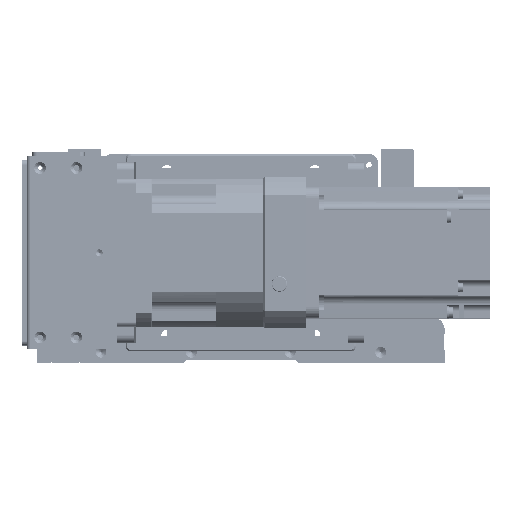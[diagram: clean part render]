
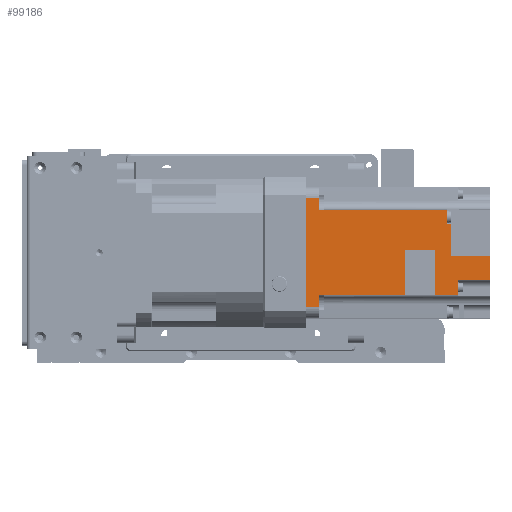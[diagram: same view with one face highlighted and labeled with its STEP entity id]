
A CAD part, front view. The second image highlights one B-rep face of the part: STEP entity #99186.
In plain terms, the highlighted planar face has unit normal (0, -1, 0.003).
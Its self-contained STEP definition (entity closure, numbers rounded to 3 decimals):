
#4140=PLANE('',#107524);
#10253=FACE_OUTER_BOUND('',#16115,.T.);
#16115=EDGE_LOOP('',(#83112,#83113,#83114,#83115,#83116,#83117,#83118,#83119,
#83120,#83121,#83122,#83123,#83124,#83125,#83126,#83127,#83128,#83129,#83130,
#83131,#83132,#83133,#83134,#83135,#83136,#83137));
#23862=LINE('',#158003,#35032);
#23863=LINE('',#158006,#35033);
#23868=LINE('',#158048,#35038);
#23872=LINE('',#158077,#35042);
#23875=LINE('',#158088,#35045);
#23876=LINE('',#158092,#35046);
#23877=LINE('',#158094,#35047);
#23878=LINE('',#158095,#35048);
#23879=LINE('',#158097,#35049);
#23880=LINE('',#158099,#35050);
#23881=LINE('',#158101,#35051);
#23882=LINE('',#158102,#35052);
#23883=LINE('',#158104,#35053);
#23884=LINE('',#158106,#35054);
#23885=LINE('',#158108,#35055);
#23886=LINE('',#158110,#35056);
#23887=LINE('',#158112,#35057);
#23888=LINE('',#158114,#35058);
#23889=LINE('',#158116,#35059);
#23890=LINE('',#158118,#35060);
#23891=LINE('',#158120,#35061);
#23892=LINE('',#158122,#35062);
#23893=LINE('',#158124,#35063);
#23894=LINE('',#158126,#35064);
#23895=LINE('',#158128,#35065);
#23896=LINE('',#158129,#35066);
#35032=VECTOR('',#126040,3.);
#35033=VECTOR('',#126043,0.009);
#35038=VECTOR('',#126082,0.009);
#35042=VECTOR('',#126112,7.342);
#35045=VECTOR('',#126123,8.);
#35046=VECTOR('',#126126,2.548);
#35047=VECTOR('',#126127,2.682);
#35048=VECTOR('',#126128,75.);
#35049=VECTOR('',#126129,66.);
#35050=VECTOR('',#126130,8.);
#35051=VECTOR('',#126131,7.342);
#35052=VECTOR('',#126132,3.);
#35053=VECTOR('',#126133,49.1);
#35054=VECTOR('',#126134,27.466);
#35055=VECTOR('',#126135,18.55);
#35056=VECTOR('',#126136,27.466);
#35057=VECTOR('',#126137,13.85);
#35058=VECTOR('',#126138,8.966);
#35059=VECTOR('',#126139,19.5);
#35060=VECTOR('',#126140,14.5);
#35061=VECTOR('',#126141,23.5);
#35062=VECTOR('',#126142,19.4);
#35063=VECTOR('',#126143,0.5);
#35064=VECTOR('',#126144,0.001);
#35065=VECTOR('',#126145,2.);
#35066=VECTOR('',#126146,3.238);
#48792=VERTEX_POINT('',#157997);
#48794=VERTEX_POINT('',#158001);
#48795=VERTEX_POINT('',#158005);
#48814=VERTEX_POINT('',#158045);
#48815=VERTEX_POINT('',#158047);
#48826=VERTEX_POINT('',#158074);
#48831=VERTEX_POINT('',#158086);
#48832=VERTEX_POINT('',#158090);
#48833=VERTEX_POINT('',#158091);
#48834=VERTEX_POINT('',#158093);
#48835=VERTEX_POINT('',#158096);
#48836=VERTEX_POINT('',#158098);
#48837=VERTEX_POINT('',#158100);
#48838=VERTEX_POINT('',#158103);
#48839=VERTEX_POINT('',#158105);
#48840=VERTEX_POINT('',#158107);
#48841=VERTEX_POINT('',#158109);
#48842=VERTEX_POINT('',#158111);
#48843=VERTEX_POINT('',#158113);
#48844=VERTEX_POINT('',#158115);
#48845=VERTEX_POINT('',#158117);
#48846=VERTEX_POINT('',#158119);
#48847=VERTEX_POINT('',#158121);
#48848=VERTEX_POINT('',#158123);
#48849=VERTEX_POINT('',#158125);
#48850=VERTEX_POINT('',#158127);
#60928=EDGE_CURVE('',#48794,#48792,#23862,.T.);
#60929=EDGE_CURVE('',#48792,#48795,#23863,.T.);
#60949=EDGE_CURVE('',#48814,#48815,#23868,.T.);
#60963=EDGE_CURVE('',#48794,#48826,#23872,.T.);
#60969=EDGE_CURVE('',#48826,#48831,#23875,.T.);
#60970=EDGE_CURVE('',#48832,#48833,#23876,.T.);
#60971=EDGE_CURVE('',#48834,#48832,#23877,.T.);
#60972=EDGE_CURVE('',#48834,#48795,#23878,.T.);
#60973=EDGE_CURVE('',#48831,#48835,#23879,.T.);
#60974=EDGE_CURVE('',#48835,#48836,#23880,.T.);
#60975=EDGE_CURVE('',#48836,#48837,#23881,.T.);
#60976=EDGE_CURVE('',#48837,#48815,#23882,.T.);
#60977=EDGE_CURVE('',#48838,#48814,#23883,.T.);
#60978=EDGE_CURVE('',#48838,#48839,#23884,.T.);
#60979=EDGE_CURVE('',#48839,#48840,#23885,.T.);
#60980=EDGE_CURVE('',#48841,#48840,#23886,.T.);
#60981=EDGE_CURVE('',#48841,#48842,#23887,.T.);
#60982=EDGE_CURVE('',#48843,#48842,#23888,.T.);
#60983=EDGE_CURVE('',#48844,#48843,#23889,.T.);
#60984=EDGE_CURVE('',#48844,#48845,#23890,.T.);
#60985=EDGE_CURVE('',#48845,#48846,#23891,.T.);
#60986=EDGE_CURVE('',#48846,#48847,#23892,.T.);
#60987=EDGE_CURVE('',#48847,#48848,#23893,.T.);
#60988=EDGE_CURVE('',#48849,#48848,#23894,.T.);
#60989=EDGE_CURVE('',#48849,#48850,#23895,.T.);
#60990=EDGE_CURVE('',#48833,#48850,#23896,.T.);
#83112=ORIENTED_EDGE('',*,*,#60970,.F.);
#83113=ORIENTED_EDGE('',*,*,#60971,.F.);
#83114=ORIENTED_EDGE('',*,*,#60972,.T.);
#83115=ORIENTED_EDGE('',*,*,#60929,.F.);
#83116=ORIENTED_EDGE('',*,*,#60928,.F.);
#83117=ORIENTED_EDGE('',*,*,#60963,.T.);
#83118=ORIENTED_EDGE('',*,*,#60969,.T.);
#83119=ORIENTED_EDGE('',*,*,#60973,.T.);
#83120=ORIENTED_EDGE('',*,*,#60974,.T.);
#83121=ORIENTED_EDGE('',*,*,#60975,.T.);
#83122=ORIENTED_EDGE('',*,*,#60976,.T.);
#83123=ORIENTED_EDGE('',*,*,#60949,.F.);
#83124=ORIENTED_EDGE('',*,*,#60977,.F.);
#83125=ORIENTED_EDGE('',*,*,#60978,.T.);
#83126=ORIENTED_EDGE('',*,*,#60979,.T.);
#83127=ORIENTED_EDGE('',*,*,#60980,.F.);
#83128=ORIENTED_EDGE('',*,*,#60981,.T.);
#83129=ORIENTED_EDGE('',*,*,#60982,.F.);
#83130=ORIENTED_EDGE('',*,*,#60983,.F.);
#83131=ORIENTED_EDGE('',*,*,#60984,.T.);
#83132=ORIENTED_EDGE('',*,*,#60985,.T.);
#83133=ORIENTED_EDGE('',*,*,#60986,.T.);
#83134=ORIENTED_EDGE('',*,*,#60987,.T.);
#83135=ORIENTED_EDGE('',*,*,#60988,.F.);
#83136=ORIENTED_EDGE('',*,*,#60989,.T.);
#83137=ORIENTED_EDGE('',*,*,#60990,.F.);
#99186=ADVANCED_FACE('',(#10253),#4140,.F.);
#107524=AXIS2_PLACEMENT_3D('',#158089,#126124,#126125);
#126040=DIRECTION('',(0.,0.,-1.));
#126043=DIRECTION('',(1.,0.,0.));
#126082=DIRECTION('',(1.,0.,0.));
#126112=DIRECTION('',(1.,0.,0.));
#126123=DIRECTION('',(0.,0.,1.));
#126124=DIRECTION('center_axis',(0.,1.,0.));
#126125=DIRECTION('ref_axis',(1.,0.,0.));
#126126=DIRECTION('',(-1.,0.,0.));
#126127=DIRECTION('',(-1.,0.,0.));
#126128=DIRECTION('',(0.,0.,1.));
#126129=DIRECTION('',(-1.,0.,0.));
#126130=DIRECTION('',(0.,0.,-1.));
#126131=DIRECTION('',(1.,0.,0.));
#126132=DIRECTION('',(0.,0.,-1.));
#126133=DIRECTION('',(0.,0.,1.));
#126134=DIRECTION('',(1.,0.,0.));
#126135=DIRECTION('',(0.,0.,-1.));
#126136=DIRECTION('',(1.,0.,0.));
#126137=DIRECTION('',(0.,0.,-1.));
#126138=DIRECTION('',(-1.,0.,0.));
#126139=DIRECTION('',(0.,0.,1.));
#126140=DIRECTION('',(1.,0.,0.));
#126141=DIRECTION('',(0.,0.,1.));
#126142=DIRECTION('',(1.,0.,0.));
#126143=DIRECTION('',(0.,0.,1.));
#126144=DIRECTION('',(1.,0.,0.));
#126145=DIRECTION('',(0.,0.,1.));
#126146=DIRECTION('',(-1.,0.,0.));
#157997=CARTESIAN_POINT('',(25.658,-40.,-11.));
#158001=CARTESIAN_POINT('',(25.658,-40.,-8.));
#158003=CARTESIAN_POINT('',(25.658,-40.,-8.));
#158005=CARTESIAN_POINT('',(25.666,-40.,-11.));
#158006=CARTESIAN_POINT('',(25.658,-40.,-11.));
#158045=CARTESIAN_POINT('',(-25.666,-40.,-11.));
#158047=CARTESIAN_POINT('',(-25.658,-40.,-11.));
#158048=CARTESIAN_POINT('',(-25.666,-40.,-11.));
#158074=CARTESIAN_POINT('',(33.,-40.,-8.));
#158077=CARTESIAN_POINT('',(25.658,-40.,-8.));
#158086=CARTESIAN_POINT('',(33.,-40.,0.));
#158088=CARTESIAN_POINT('',(33.,-40.,-8.));
#158089=CARTESIAN_POINT('Origin',(0.,-40.,-5.5));
#158090=CARTESIAN_POINT('',(22.985,-40.,-86.));
#158091=CARTESIAN_POINT('',(20.437,-40.,-86.));
#158092=CARTESIAN_POINT('',(22.985,-40.,-86.));
#158093=CARTESIAN_POINT('',(25.666,-40.,-86.));
#158094=CARTESIAN_POINT('',(25.666,-40.,-86.));
#158095=CARTESIAN_POINT('',(25.666,-40.,-86.));
#158096=CARTESIAN_POINT('',(-33.,-40.,0.));
#158097=CARTESIAN_POINT('',(33.,-40.,0.));
#158098=CARTESIAN_POINT('',(-33.,-40.,-8.));
#158099=CARTESIAN_POINT('',(-33.,-40.,0.));
#158100=CARTESIAN_POINT('',(-25.658,-40.,-8.));
#158101=CARTESIAN_POINT('',(-33.,-40.,-8.));
#158102=CARTESIAN_POINT('',(-25.658,-40.,-8.));
#158103=CARTESIAN_POINT('',(-25.666,-40.,-60.1));
#158104=CARTESIAN_POINT('',(-25.666,-40.,-60.1));
#158105=CARTESIAN_POINT('',(1.8,-40.,-60.1));
#158106=CARTESIAN_POINT('',(-25.666,-40.,-60.1));
#158107=CARTESIAN_POINT('',(1.8,-40.,-78.65));
#158108=CARTESIAN_POINT('',(1.8,-40.,-60.1));
#158109=CARTESIAN_POINT('',(-25.666,-40.,-78.65));
#158110=CARTESIAN_POINT('',(-25.666,-40.,-78.65));
#158111=CARTESIAN_POINT('',(-25.666,-40.,-92.5));
#158112=CARTESIAN_POINT('',(-25.666,-40.,-78.65));
#158113=CARTESIAN_POINT('',(-16.7,-40.,-92.5));
#158114=CARTESIAN_POINT('',(-16.7,-40.,-92.5));
#158115=CARTESIAN_POINT('',(-16.7,-40.,-112.));
#158116=CARTESIAN_POINT('',(-16.7,-40.,-112.));
#158117=CARTESIAN_POINT('',(-2.2,-40.,-112.));
#158118=CARTESIAN_POINT('',(-16.7,-40.,-112.));
#158119=CARTESIAN_POINT('',(-2.2,-40.,-88.5));
#158120=CARTESIAN_POINT('',(-2.2,-40.,-112.));
#158121=CARTESIAN_POINT('',(17.2,-40.,-88.5));
#158122=CARTESIAN_POINT('',(-2.2,-40.,-88.5));
#158123=CARTESIAN_POINT('',(17.2,-40.,-88.));
#158124=CARTESIAN_POINT('',(17.2,-40.,-88.5));
#158125=CARTESIAN_POINT('',(17.199,-40.,-88.));
#158126=CARTESIAN_POINT('',(17.199,-40.,-88.));
#158127=CARTESIAN_POINT('',(17.199,-40.,-86.));
#158128=CARTESIAN_POINT('',(17.199,-40.,-88.));
#158129=CARTESIAN_POINT('',(20.437,-40.,-86.));
